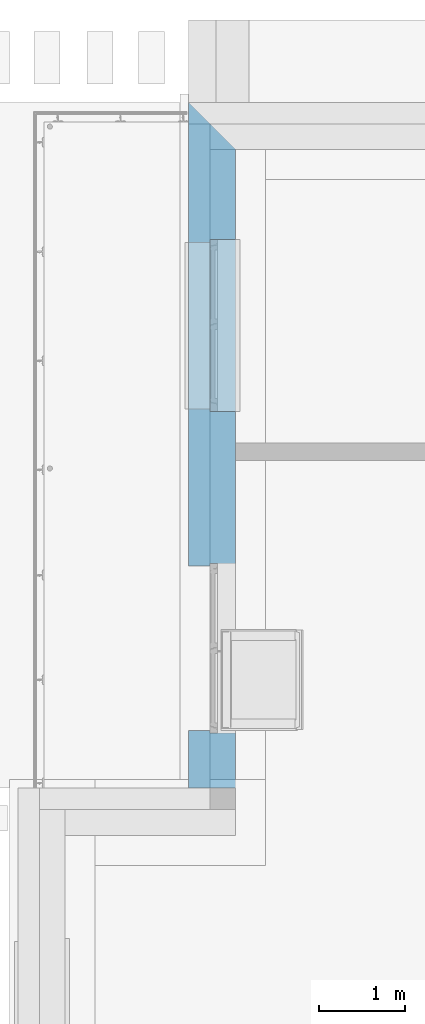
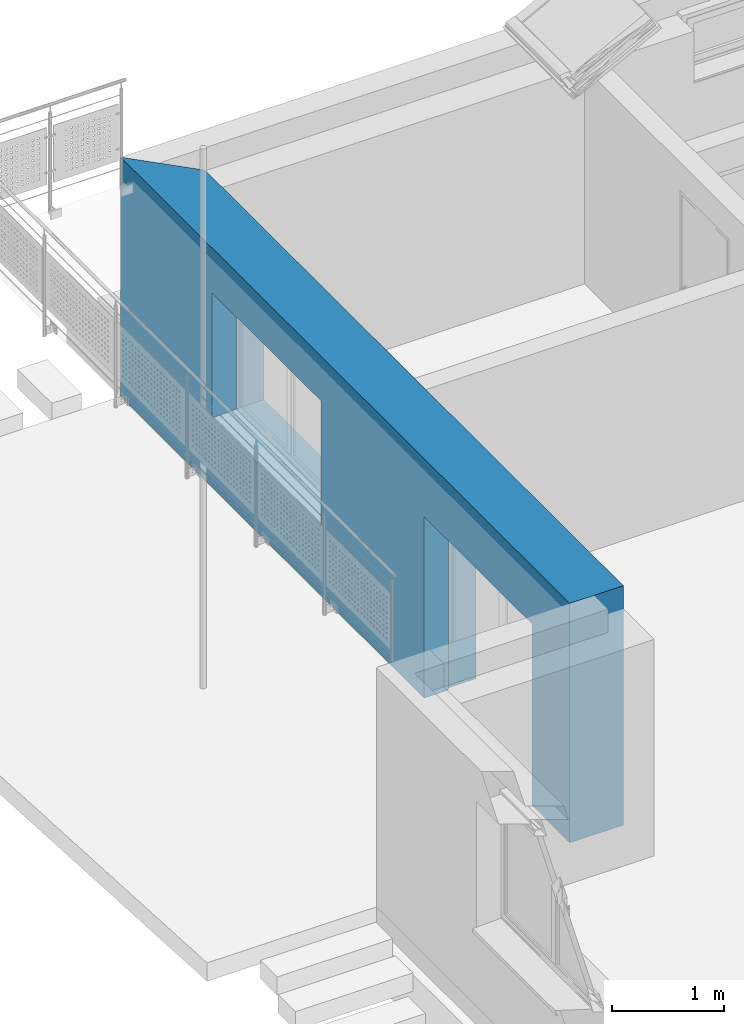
# One storey, part 5 of 22: 1 wall, 2 openings.
"""IFC2X3 building model written with IfcOpenShell, lengths in metres."""

from ifc_helpers import new_model, entity, si_unit, converted_unit, derived_unit, direction, frame, origin, place, context, subcontext, project, spatial, polyline, outline, extrude, faceted_brep, material, layer, layer_set, layer_usage, type_object, element, save


model = new_model("IFC2X3")

# Units and contexts
model_context = context("Model", 3, precision=1e-05, world=origin(), true_north=direction((6.123233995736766e-17, 1.0)))
body_context = subcontext(model_context, "Body", "Model", "MODEL_VIEW")
ifc_project = project(units=[si_unit("LENGTHUNIT", "METRE"), si_unit("AREAUNIT", "SQUARE_METRE"), si_unit("VOLUMEUNIT", "CUBIC_METRE"), si_unit("POWERUNIT", "WATT"), derived_unit("USERDEFINED", [(si_unit("MASSUNIT", "GRAM", prefix="KILO"), 1), (si_unit("TIMEUNIT", "SECOND"), -3)]), derived_unit("THERMALRESISTANCEUNIT", [(si_unit("MASSUNIT", "GRAM", prefix="KILO"), -1), (si_unit("TIMEUNIT", "SECOND"), 3), (si_unit("THERMODYNAMICTEMPERATUREUNIT", "KELVIN"), 1)]), derived_unit("USERDEFINED", [(si_unit("MASSUNIT", "GRAM", prefix="KILO"), 1), (si_unit("TIMEUNIT", "SECOND"), -2), (si_unit("THERMODYNAMICTEMPERATUREUNIT", "KELVIN"), -1)]), derived_unit("THERMALTRANSMITTANCEUNIT", [(si_unit("MASSUNIT", "GRAM", prefix="KILO"), 1), (si_unit("TIMEUNIT", "SECOND"), -3), (si_unit("THERMODYNAMICTEMPERATUREUNIT", "KELVIN"), -1)]), converted_unit("PLANEANGLEUNIT", "DEGREE", entity("IfcPlaneAngleMeasure", 0.017453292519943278), si_unit("PLANEANGLEUNIT", "RADIAN"), dimensions=[0, 0, 0, 0, 0, 0, 0]), derived_unit("MOMENTOFINERTIAUNIT", [(si_unit("LENGTHUNIT", "METRE"), 4)])], contexts=[model_context])

# Site, building, storey
site_placement = place(None, origin())
site = spatial("IfcSite", under=ifc_project, at=site_placement, Name="Default", CompositionType="ELEMENT")
building_placement = place(site_placement, origin())
building = spatial("IfcBuilding", under=site, at=building_placement, CompositionType="ELEMENT")
storey_placement = place(building_placement, origin())
storey = spatial("IfcBuildingStorey", under=building, at=storey_placement, Name="Untergeschoss", CompositionType="ELEMENT", Elevation=0.0)

# Wall, openings
ifc_material_1 = material(Name="Dämmung - hart")
ifc_layer_1 = layer(ifc_material_1, 0.24999999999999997)
ifc_material_2 = material(Name="Mauerwerk - Ziegel")
ifc_layer_2 = layer(ifc_material_2, 0.29999999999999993)
ifc_layer_set = layer_set([ifc_layer_1, ifc_layer_2], Name="Basiswand:Ziegel+WD hart 300+250")
ifc_layer_usage = layer_usage(ifc_layer_set, "AXIS2", "NEGATIVE", 0.27499999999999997)
wall_type = type_object("IfcWallType", Name="Basiswand:Ziegel+WD hart 300+250", PredefinedType="STANDARD", material=ifc_layer_set)
wall_placement = place(storey_placement, frame((29.811720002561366, 20.60227237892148, 0.0), z_axis=(0.0, 0.0, 1.0), x_axis=(0.0, 1.0, 0.0)))
wall = element("IfcWallStandardCase", 1, at=wall_placement, inside=storey, type_object=wall_type, material=ifc_layer_usage, Name="Basiswand:Ziegel+WD hart 300+250", ObjectType="Basiswand:Ziegel+WD hart 300+250", context=body_context, shape_type="SweptSolid", body=[
    extrude(outline(polyline([(0.0, -0.27500000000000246), (7.440000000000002, -0.27500000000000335), (7.990000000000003, 0.27499999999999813), (0.0, 0.27499999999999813), (0.0, -0.27500000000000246)])), origin(), (0.0, 0.0, 1.0), 2.6),
])
opening_1_placement = place(wall_placement, frame((-20.60227237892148, 29.811720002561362, 0.0), z_axis=(0.0, 0.0, 1.0), x_axis=(0.0, -1.0, 0.0)))
element("IfcOpeningElement", 2, at=opening_1_placement, cuts=wall, Name="Basiswand:Ziegel+WD hart 300+250", ObjectType="Opening", context=body_context, shape_type="Brep", body=[
    faceted_brep([(29.786720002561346, 21.242272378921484, 2.0), (30.08672000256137, 21.242272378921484, 2.0), (30.086720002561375, 23.22227237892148, 2.0), (29.786720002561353, 23.22227237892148, 2.0), (29.786720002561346, 21.242272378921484, -0.20000000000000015), (29.786720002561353, 23.22227237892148, -0.20000000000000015), (30.086720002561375, 23.22227237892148, -0.20000000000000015), (30.08672000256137, 21.242272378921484, -0.20000000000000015), (29.786720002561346, 23.192272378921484, 1.9700000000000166), (29.786720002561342, 21.272272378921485, 1.9700000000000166), (29.786720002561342, 21.272272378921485, 0.0), (29.786720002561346, 23.192272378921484, 0.0), (29.376720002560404, 23.192272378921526, 1.9700000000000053), (29.376720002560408, 23.192272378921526, -0.010000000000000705), (29.376720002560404, 21.272272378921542, -0.010000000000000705), (29.3767200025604, 21.27227237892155, 1.9700000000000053)], [[[0, 1, 2, 3]], [[4, 5, 6, 7]], [[0, 4, 7, 1]], [[1, 7, 6, 2]], [[2, 6, 5, 3]], [[3, 5, 4, 0], [8, 9, 10, 11]], [[12, 13, 14, 15]], [[12, 8, 11, 13]], [[13, 11, 10, 14]], [[14, 10, 9, 15]], [[15, 9, 8, 12]]]),
])
opening_2_placement = place(wall_placement, frame((-20.60227237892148, 29.811720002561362, 0.7449999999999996), z_axis=(0.0, 0.0, 1.0), x_axis=(0.0, -1.0, 0.0)))
element("IfcOpeningElement", 3, at=opening_2_placement, cuts=wall, Name="Basiswand:Ziegel+WD hart 300+250", ObjectType="Opening", context=body_context, shape_type="Brep", body=[
    faceted_brep([(29.786720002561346, 24.99227237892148, 1.3999999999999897), (30.136720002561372, 24.99227237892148, 1.3999999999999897), (30.136720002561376, 26.992272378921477, 1.3999999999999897), (29.786720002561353, 26.99227237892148, 1.3999999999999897), (29.786720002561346, 24.99227237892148, 0.0), (29.786720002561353, 26.99227237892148, 0.0), (30.136720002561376, 26.992272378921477, 0.0), (30.136720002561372, 24.99227237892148, 0.0), (29.786720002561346, 26.962272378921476, 1.3700000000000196), (29.786720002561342, 25.02227237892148, 1.3700000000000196), (29.786720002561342, 25.02227237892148, 0.020000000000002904), (29.786720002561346, 26.962272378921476, 0.020000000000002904), (29.516720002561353, 26.96227237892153, 1.3699999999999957), (29.516720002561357, 26.96227237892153, 0.009999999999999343), (29.516720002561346, 25.022272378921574, 0.009999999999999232), (29.516720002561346, 25.022272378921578, 1.3699999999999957)], [[[0, 1, 2, 3]], [[4, 5, 6, 7]], [[0, 4, 7, 1]], [[1, 7, 6, 2]], [[2, 6, 5, 3]], [[3, 5, 4, 0], [8, 9, 10, 11]], [[12, 13, 14, 15]], [[12, 8, 11, 13]], [[13, 11, 10, 14]], [[14, 10, 9, 15]], [[15, 9, 8, 12]]]),
])

save(model, "model.ifc")
